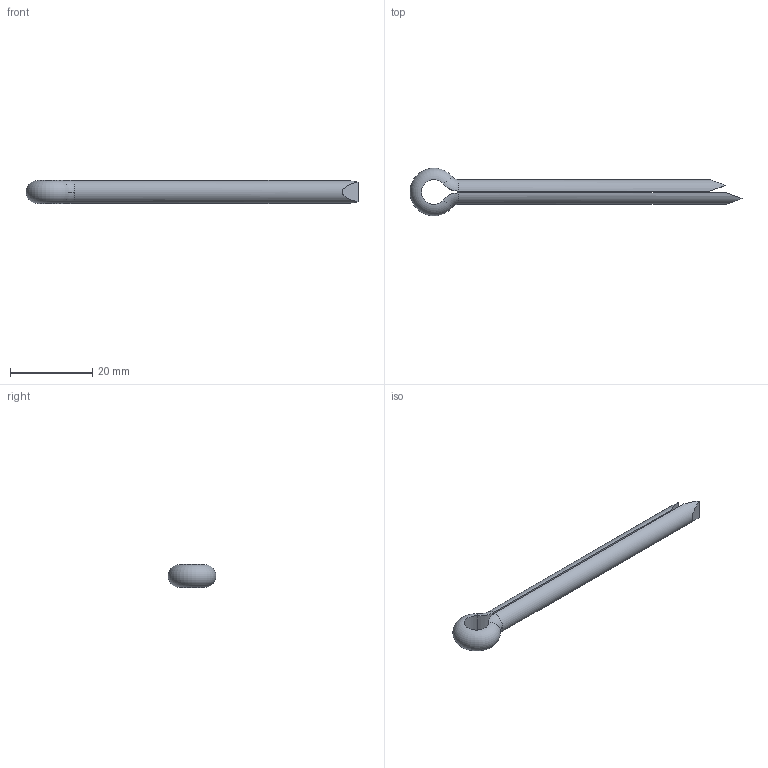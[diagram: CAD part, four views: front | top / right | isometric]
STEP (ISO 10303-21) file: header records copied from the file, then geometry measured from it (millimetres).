
FILE_DESCRIPTION (( 'STEP AP203' ), '1' );
FILE_NAME ('65674.0063.step', '2014-01-07T16:36:27', ( 'User' ), ( '' ), 'SwSTEP 2.0', 'SolidWorks 2009', '' );
FILE_SCHEMA (( 'CONFIG_CONTROL_DESIGN' ));
Length unit declared in the file: millimetre
Products named in the file (1): 65674.0063
Bounding box: 80.8 x 11.6 x 5.6 mm (x, y, z)
Volume: 1935.9 mm3; surface area: 2299.3 mm2
Topology: 1 solids, 1 shells, 16 faces, 34 edges, 20 vertices
Faces by surface type: plane 6, torus 5, cylinder 5
Entity records: 507 total; most frequent: CARTESIAN_POINT 89, DIRECTION 78, ORIENTED_EDGE 68, EDGE_CURVE 34, AXIS2_PLACEMENT_3D 33, VERTEX_POINT 20, EDGE_LOOP 16, ADVANCED_FACE 16
